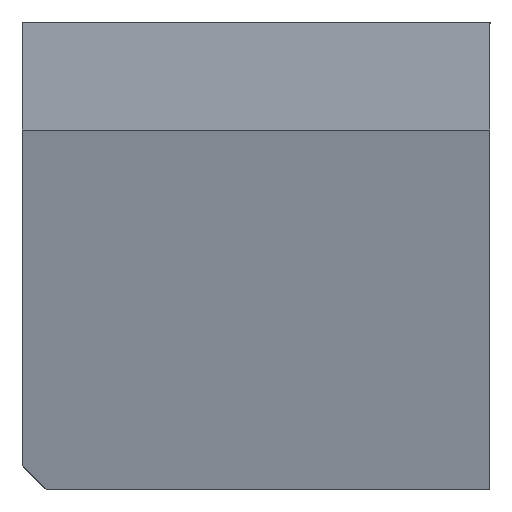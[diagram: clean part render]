
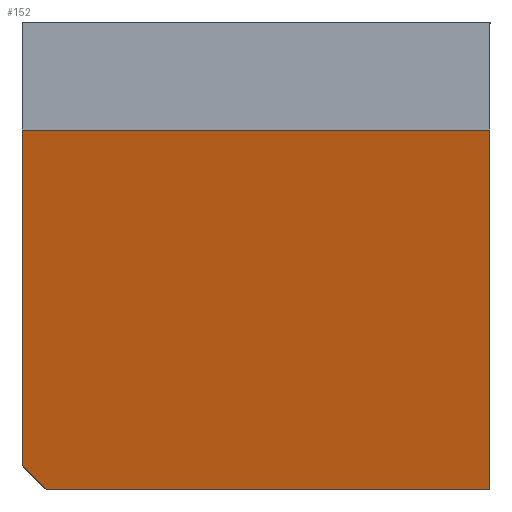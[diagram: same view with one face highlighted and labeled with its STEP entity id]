
A CAD part, left-side view. The second image highlights one B-rep face of the part: STEP entity #152.
In plain terms, the highlighted planar face has unit normal (-0.943, 0.334, 0).
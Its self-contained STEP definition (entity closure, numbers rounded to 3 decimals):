
#152=ADVANCED_FACE('',(#537),#538,.F.);
#537=FACE_OUTER_BOUND('',#1151,.T.);
#538=PLANE('',#1152);
#1151=EDGE_LOOP('',(#2751,#2752,#2753,#2754,#2755));
#1152=AXIS2_PLACEMENT_3D('',#2756,#2757,#2758);
#2751=ORIENTED_EDGE('',*,*,#4893,.T.);
#2752=ORIENTED_EDGE('',*,*,#5121,.T.);
#2753=ORIENTED_EDGE('',*,*,#5122,.T.);
#2754=ORIENTED_EDGE('',*,*,#4885,.F.);
#2755=ORIENTED_EDGE('',*,*,#5123,.T.);
#2756=CARTESIAN_POINT('',(-6.916,-19.5,39.0));
#2757=DIRECTION('',(0.942,-0.334,0.0));
#2758=DIRECTION('',(0.0,0.0,-1.0));
#4885=EDGE_CURVE('',#6248,#6250,#6251,.T.);
#4893=EDGE_CURVE('',#6264,#6262,#6265,.T.);
#5121=EDGE_CURVE('',#6262,#6645,#6646,.T.);
#5122=EDGE_CURVE('',#6645,#6250,#6647,.T.);
#5123=EDGE_CURVE('',#6248,#6264,#6648,.T.);
#6248=VERTEX_POINT('',#8295);
#6250=VERTEX_POINT('',#8298);
#6251=LINE('',#8299,#8300);
#6262=VERTEX_POINT('',#8317);
#6264=VERTEX_POINT('',#8320);
#6265=LINE('',#8321,#8322);
#6645=VERTEX_POINT('',#8929);
#6646=LINE('',#8930,#8931);
#6647=LINE('',#8932,#8933);
#6648=LINE('',#8934,#8935);
#8295=CARTESIAN_POINT('',(-6.916,-19.5,30.0));
#8298=CARTESIAN_POINT('',(-6.916,-19.5,0.0));
#8299=CARTESIAN_POINT('',(-6.916,-19.5,39.0));
#8300=VECTOR('',#9765,1000.0);
#8317=CARTESIAN_POINT('',(6.916,19.5,2.0));
#8320=CARTESIAN_POINT('',(6.916,19.5,30.0));
#8321=CARTESIAN_POINT('',(6.916,19.5,39.0));
#8322=VECTOR('',#9773,1000.0);
#8929=CARTESIAN_POINT('',(6.207,17.5,0.0));
#8930=CARTESIAN_POINT('',(6.916,19.5,2.0));
#8931=VECTOR('',#10001,1000.0);
#8932=CARTESIAN_POINT('',(-6.916,-19.5,0.0));
#8933=VECTOR('',#10002,1000.0);
#8934=CARTESIAN_POINT('',(-6.916,-19.5,30.0));
#8935=VECTOR('',#10003,1000.0);
#9765=DIRECTION('',(-0.0,-0.0,-1.0));
#9773=DIRECTION('',(-0.0,-0.0,-1.0));
#10001=DIRECTION('',(-0.243,-0.686,-0.686));
#10002=DIRECTION('',(-0.334,-0.942,-0.0));
#10003=DIRECTION('',(0.334,0.942,0.0));
